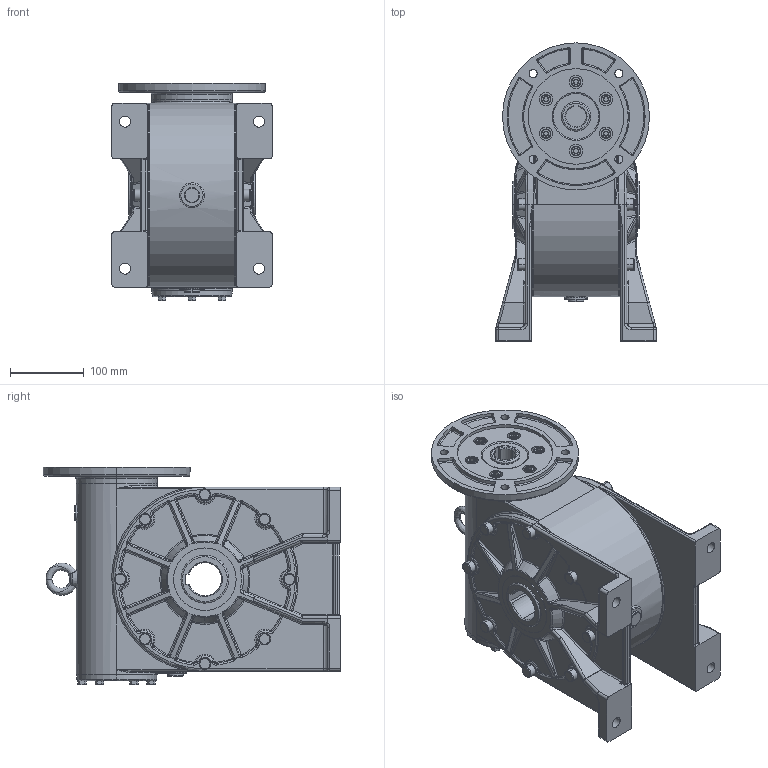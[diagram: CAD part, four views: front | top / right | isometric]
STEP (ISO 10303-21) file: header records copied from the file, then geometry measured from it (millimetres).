
FILE_DESCRIPTION (( 'STEP AP214' ), '1' );
FILE_NAME ('Sestava MRT120-A.STEP', '2007-06-25T11:24:38', ( '' ), ( '' ), 'SwSTEP 2.0', 'SolidWorks 2004146', '' );
FILE_SCHEMA (( 'AUTOMOTIVE_DESIGN' ));
Length unit declared in the file: millimetre
Products named in the file (7): A18151M_ANSI B18.15.1M Závìsný šroub M10; Pøíruba MRT120 kulatá _130-165-188; Víèko_Výchozí; Skøíò120_Výchozí; N021143_Šroub s vnitøním šestihranem DIN 912 - M8 x 25; Patka 120_Výchozí; Sestava MRT120-A
Assembly tree (12 placements, depth 2):
  Sestava MRT120-A
    A18151M_ANSI B18.15.1M Závìsný šroub M10
    N021143_Šroub s vnitøním šestihranem DIN 912 - M8 x 25  x6
    Patka 120_Výchozí  x2
    Pøíruba MRT120 kulatá _130-165-188
    Skøíò120_Výchozí
    Víèko_Výchozí
Bounding box: 218 x 405 x 295.3 mm (x, y, z)
Volume: 9687985.2 mm3; surface area: 768501.9 mm2
Topology: 12 solids, 12 shells, 1559 faces, 3613 edges, 2074 vertices
Faces by surface type: torus 453, cylinder 317, plane 286, bspline 274, cone 139, sphere 90
Entity records: 73802 total; most frequent: CARTESIAN_POINT 53044, DIRECTION 4512, ORIENTED_EDGE 4240, EDGE_CURVE 2120, AXIS2_PLACEMENT_3D 1989, VERTEX_POINT 1250, CIRCLE 1210, EDGE_LOOP 974
